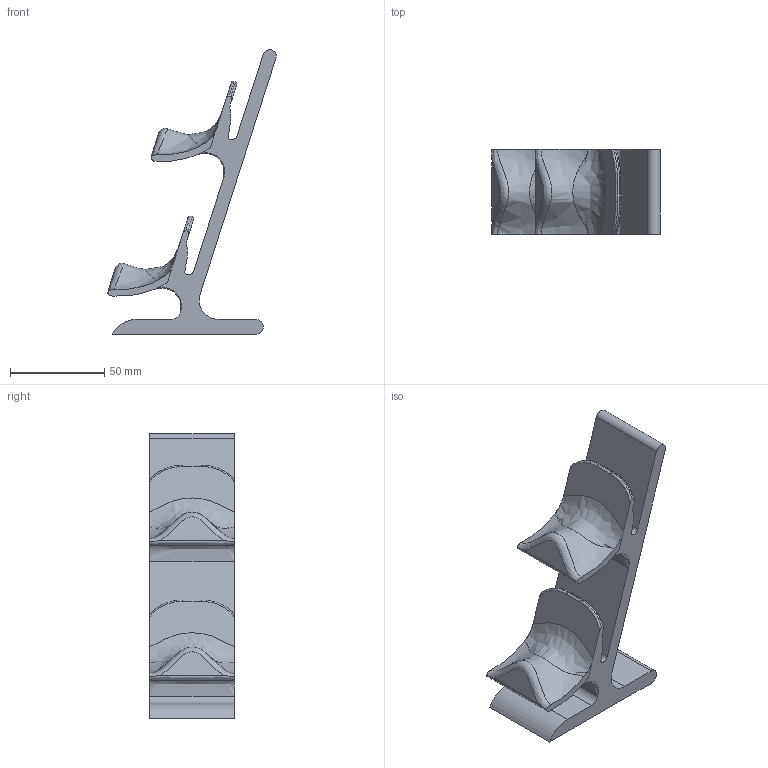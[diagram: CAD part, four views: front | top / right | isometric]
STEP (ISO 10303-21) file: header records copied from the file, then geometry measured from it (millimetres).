
FILE_DESCRIPTION(/* description */ (''),/* implementation_level */ '2;1');
FILE_NAME(/* name */ 'Support lunettes - prsentoire 2 places.step',/* time_stamp */ '2025-07-16T16:22:10+02:00',/* author */ (''),/* organization */ (''),/* preprocessor_version */ 'ST-DEVELOPER v20.1',/* originating_system */ 'Autodesk Translation Framework v14.10.0.0',/* authorisation */ '');
FILE_SCHEMA (('AUTOMOTIVE_DESIGN { 1 0 10303 214 3 1 1 }'));
Length unit declared in the file: millimetre
Products named in the file (1): Support lunettes - présentoire 4 places
Bounding box: 89.16 x 45 x 150.83 mm (x, y, z)
Volume: 125692.3 mm3; surface area: 37552.8 mm2
Topology: 1 solids, 1 shells, 382 faces, 1090 edges, 724 vertices
Faces by surface type: bspline 285, plane 79, cylinder 18
Entity records: 16962 total; most frequent: CARTESIAN_POINT 9267, ORIENTED_EDGE 2180, EDGE_CURVE 1090, DIRECTION 730, VERTEX_POINT 724, LINE 462, VECTOR 462, EDGE_LOOP 396
